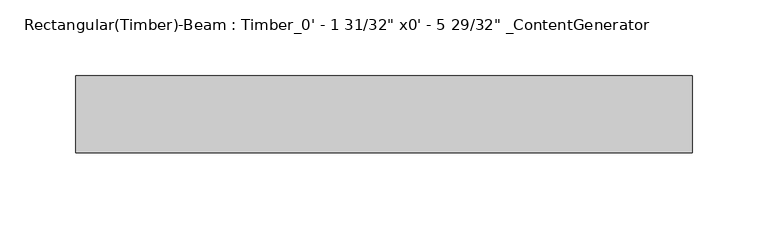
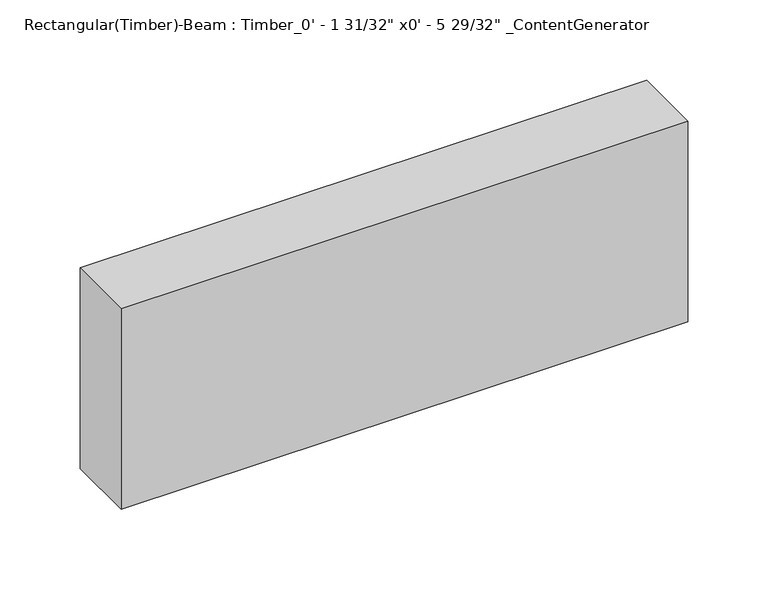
"""IFC4 building model written with IfcOpenShell, lengths in millimetres: beam geometry."""

from ifc_helpers import new_model, si_unit, frame, origin, place, context, project, spatial, polyline, outline, extrude, source, transform, mapped, element, save


def beam_8214b640(model_context):
    return source(origin(), model_context, "Body", "SweptSolid", [
        extrude(outline(polyline([(266.6999994, 25.4), (266.6999994, -25.4), (-139.69, -25.4), (-139.69, 25.4), (266.6999994, 25.4)])), frame((0.0, 0.0, -76.2), z_axis=(0.0, 0.0, 1.0), x_axis=(1.0, 0.0, 0.0)), (0.0, 0.0, 1.0), 152.4),
    ])


if __name__ == "__main__":
    model = new_model("IFC4")
    model_context = context("Model", 3, world=origin())
    ifc_project = project(units=[si_unit("LENGTHUNIT", "METRE", prefix="MILLI")], contexts=[model_context])
    site = spatial("IfcSite", under=ifc_project)
    building = spatial("IfcBuilding", under=site)
    placement = place(None, origin())
    beam_shape = beam_8214b640(model_context)
    element("IfcBeam", 1, ObjectType="Rectangular(Timber)-Beam : Timber_0' - 1 31/32\" x0' - 5 29/32\" _ContentGenerator", at=placement, inside=building, context=model_context, shape_type="MappedRepresentation", body=[
        mapped(beam_shape, transform((0.0, 0.0, 0.0), x_axis=(1.0, 0.0, 0.0), y_axis=(0.0, 1.0, 0.0), z_axis=(0.0, 0.0, 1.0))),
    ])
    save(model, "model.ifc")
